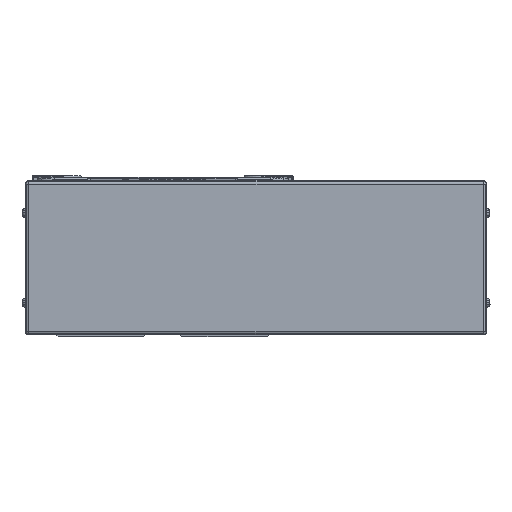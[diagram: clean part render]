
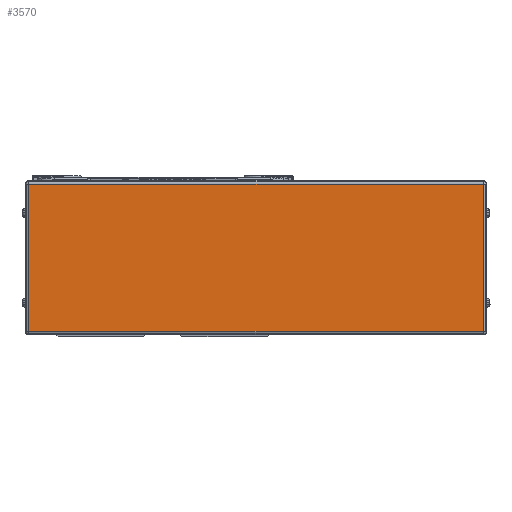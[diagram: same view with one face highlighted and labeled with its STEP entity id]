
A CAD part, left-side view. The second image highlights one B-rep face of the part: STEP entity #3570.
In plain terms, the highlighted planar face has unit normal (-1, 0, 0).
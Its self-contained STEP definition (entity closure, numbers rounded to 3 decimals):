
#3570=ADVANCED_FACE('',(#8415),#8416,.T.);
#8415=FACE_OUTER_BOUND('',#15229,.T.);
#8416=PLANE('',#15230);
#15229=EDGE_LOOP('',(#25889,#25890,#25891,#25892));
#15230=AXIS2_PLACEMENT_3D('',#25893,#25894,#25895);
#25889=ORIENTED_EDGE('',*,*,#41395,.F.);
#25890=ORIENTED_EDGE('',*,*,#41396,.F.);
#25891=ORIENTED_EDGE('',*,*,#41397,.F.);
#25892=ORIENTED_EDGE('',*,*,#41398,.F.);
#25893=CARTESIAN_POINT('',(-45.,-180.5,0.));
#25894=DIRECTION('',(-1.0,0.,0.));
#25895=DIRECTION('',(0.,0.,1.0));
#41395=EDGE_CURVE('',#50042,#50043,#50044,.T.);
#41396=EDGE_CURVE('',#50045,#50042,#50046,.T.);
#41397=EDGE_CURVE('',#50047,#50045,#50048,.T.);
#41398=EDGE_CURVE('',#50043,#50047,#50049,.T.);
#50042=VERTEX_POINT('',#61686);
#50043=VERTEX_POINT('',#61687);
#50044=LINE('',#61688,#61689);
#50045=VERTEX_POINT('',#61690);
#50046=LINE('',#61691,#61692);
#50047=VERTEX_POINT('',#61693);
#50048=LINE('',#61694,#61695);
#50049=LINE('',#61696,#61697);
#61686=CARTESIAN_POINT('',(-45.,-178.5,41.));
#61687=CARTESIAN_POINT('',(-45.,-178.5,-41.));
#61688=CARTESIAN_POINT('',(-45.,-178.5,0.));
#61689=VECTOR('',#74148,10.0);
#61690=CARTESIAN_POINT('',(-45.,74.5,41.));
#61691=CARTESIAN_POINT('',(-45.,-180.5,41.));
#61692=VECTOR('',#74149,10.0);
#61693=CARTESIAN_POINT('',(-45.,74.5,-41.));
#61694=CARTESIAN_POINT('',(-45.,74.5,0.));
#61695=VECTOR('',#74150,10.0);
#61696=CARTESIAN_POINT('',(-45.,-180.5,-41.));
#61697=VECTOR('',#74151,10.0);
#74148=DIRECTION('',(0.,0.,-1.0));
#74149=DIRECTION('',(0.,-1.0,0.));
#74150=DIRECTION('',(0.,0.,1.0));
#74151=DIRECTION('',(0.,1.0,0.));
